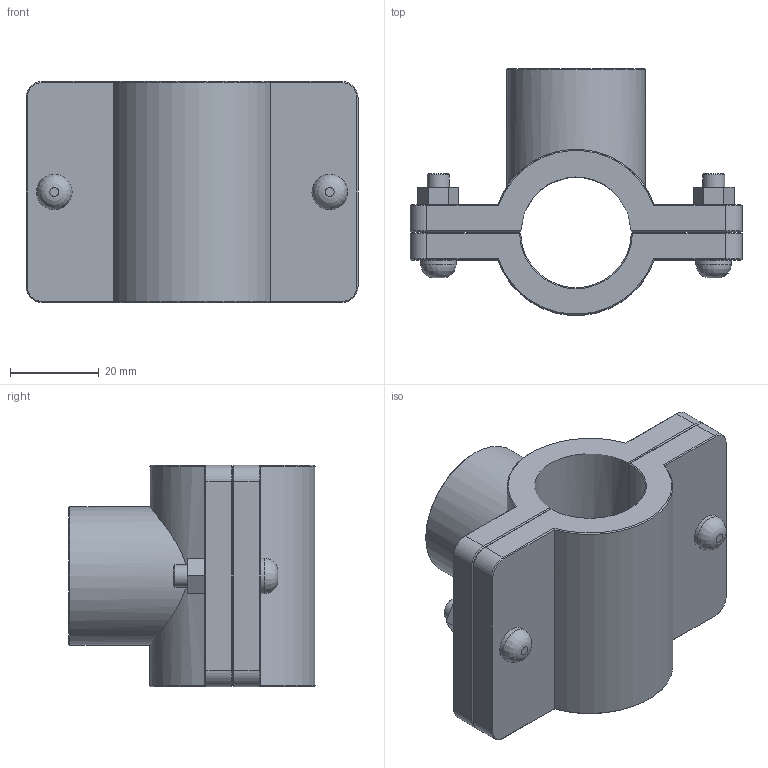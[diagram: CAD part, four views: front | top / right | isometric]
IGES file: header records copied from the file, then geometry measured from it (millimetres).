
Global section: file name: 160760025007_160860025007.ipt; native system: Autodesk Inventor 2015; preprocessor: unknown; author: KIM; date: 20170618.093438; units: millimetre
Bounding box: 75 x 55.69 x 50 mm (x, y, z)
Volume: 60750.3 mm3; surface area: 24309.5 mm2
Topology: 1 solids, 1 shells, 113 faces, 263 edges, 162 vertices
Faces by surface type: plane 64, cone 23, cylinder 17, revolution 9
Full cylindrical faces by diameter (mm): 5 x2, 8 x4, 31.352 x1
